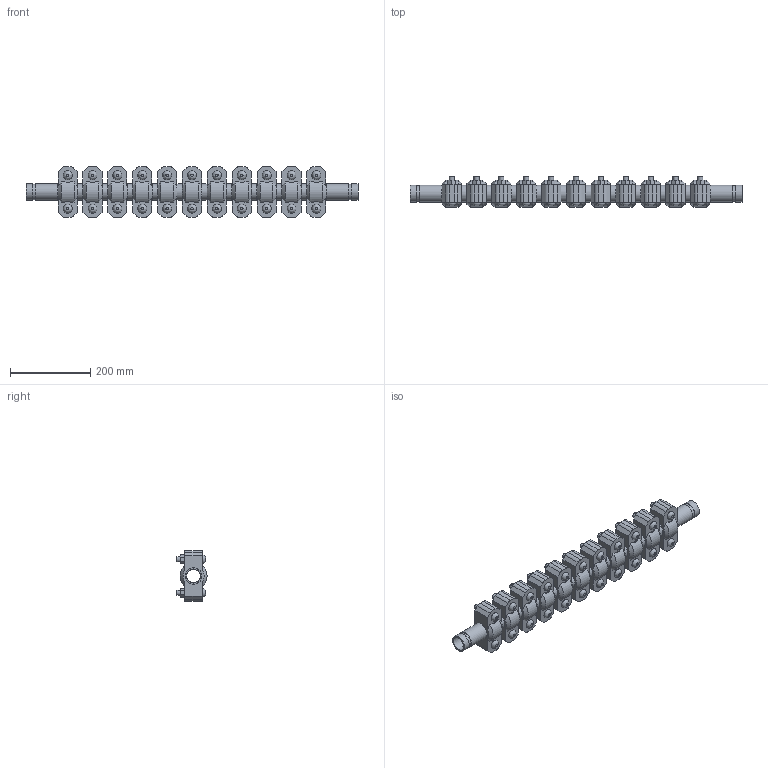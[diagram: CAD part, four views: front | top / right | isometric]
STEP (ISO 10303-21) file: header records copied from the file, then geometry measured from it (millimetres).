
FILE_DESCRIPTION(/* description */ ('VIC EXPANSION JOINT 11 COUPLINGS EXPANDED STYLE 155 (OGS)','CAx-IF Rec.Pracs.---Representation and Presentation of Product Manufacturing Information (PMI)---4.0---2014-10-13'),/* implementation_level */ '2;1');
FILE_NAME(/* name */ 'C:\Users\kkamble\AppData\Roaming\Autodesk\ApplicationPlugins\Victaulic.Temp\A474\Victaulic_IPS_Expansion Joint_Expanded_11 Couplings_Style 155 (OGS)_1.25 (32).stp',/* time_stamp */ '2021-06-26T23:51:34+02:00',/* author */ ('kkamble'),/* organization */ ('Victaulic'),/* preprocessor_version */ 'ST-DEVELOPER v17.2',/* originating_system */ 'Autodesk Inventor 2019',/* authorisation */ '');
FILE_SCHEMA (('AP242_MANAGED_MODEL_BASED_3D_ENGINEERING_MIM_LF { 1 0 10303 442 1 1 4 }'));
Length unit declared in the file: inch
Products named in the file (4): 155-01.25; Nipple-01.25; Nipple-01.25_1; 077-01.25
Assembly tree (23 placements, depth 2):
  155-01.25
    Nipple-01.25  x2
    Nipple-01.25_1  x10
    077-01.25  x11
Bounding box: 827.28 x 74.93 x 127 mm (x, y, z)
Volume: 2852901 mm3; surface area: 676671.8 mm2
Topology: 23 solids, 45 shells, 815 faces, 1955 edges, 1366 vertices
Faces by surface type: plane 468, cylinder 281, cone 44, bspline 22
Full cylindrical faces by diameter (mm): 12.7 x44, 14.605 x22, 33.274 x11, 35.052 x12, 38.989 x24, 42.164 x58
Entity records: 3065 total; most frequent: CARTESIAN_POINT 567, DIRECTION 509, ORIENTED_EDGE 410, AXIS2_PLACEMENT_3D 206, EDGE_CURVE 205, VERTEX_POINT 146, EDGE_LOOP 111, LINE 97
